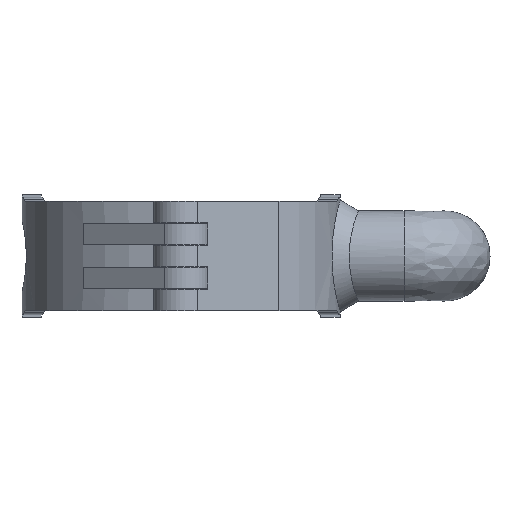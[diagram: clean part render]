
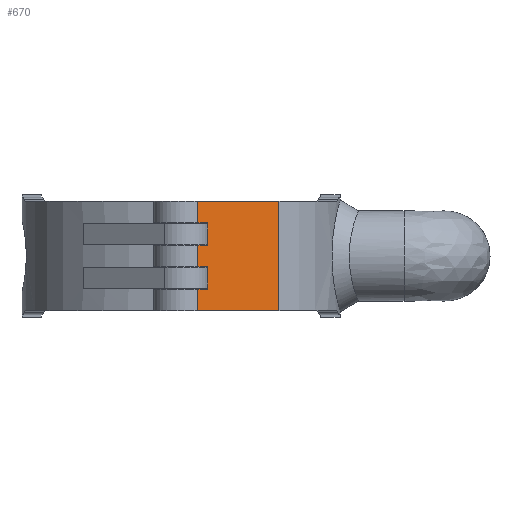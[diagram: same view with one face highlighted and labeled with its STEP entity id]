
A CAD part, front view. The second image highlights one B-rep face of the part: STEP entity #670.
In plain terms, the highlighted planar face has unit normal (0.616, -0.788, 0).
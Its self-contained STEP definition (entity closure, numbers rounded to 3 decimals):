
#546=PLANE('',#5982);
#670=ADVANCED_FACE('',(#1125),#546,.F.);
#1125=FACE_OUTER_BOUND('',#1427,.T.);
#1427=EDGE_LOOP('',(#2452,#2453,#2454,#2455,#2456,#2457,#2458,#2459,#2460,
#2461,#2462,#2463));
#1793=LINE('',#7899,#2120);
#1794=LINE('',#7901,#2121);
#1795=LINE('',#7904,#2122);
#1796=LINE('',#7906,#2123);
#1797=LINE('',#7908,#2124);
#1798=LINE('',#7910,#2125);
#1799=LINE('',#7912,#2126);
#1800=LINE('',#7914,#2127);
#1801=LINE('',#7916,#2128);
#1802=LINE('',#7918,#2129);
#1803=LINE('',#7919,#2130);
#1804=LINE('',#7921,#2131);
#2120=VECTOR('',#6515,1.);
#2121=VECTOR('',#6518,1.);
#2122=VECTOR('',#6519,1.);
#2123=VECTOR('',#6520,1.);
#2124=VECTOR('',#6521,1.);
#2125=VECTOR('',#6522,1.);
#2126=VECTOR('',#6523,1.);
#2127=VECTOR('',#6524,1.);
#2128=VECTOR('',#6525,1.);
#2129=VECTOR('',#6526,1.);
#2130=VECTOR('',#6527,1.);
#2131=VECTOR('',#6528,1.);
#2452=ORIENTED_EDGE('',*,*,#4828,.F.);
#2453=ORIENTED_EDGE('',*,*,#4829,.F.);
#2454=ORIENTED_EDGE('',*,*,#4830,.F.);
#2455=ORIENTED_EDGE('',*,*,#4831,.F.);
#2456=ORIENTED_EDGE('',*,*,#4832,.F.);
#2457=ORIENTED_EDGE('',*,*,#4833,.F.);
#2458=ORIENTED_EDGE('',*,*,#4834,.F.);
#2459=ORIENTED_EDGE('',*,*,#4835,.F.);
#2460=ORIENTED_EDGE('',*,*,#4836,.F.);
#2461=ORIENTED_EDGE('',*,*,#4827,.F.);
#2462=ORIENTED_EDGE('',*,*,#4837,.F.);
#2463=ORIENTED_EDGE('',*,*,#4838,.F.);
#4231=VERTEX_POINT('',#7890);
#4235=VERTEX_POINT('',#7898);
#4236=VERTEX_POINT('',#7902);
#4237=VERTEX_POINT('',#7903);
#4238=VERTEX_POINT('',#7905);
#4239=VERTEX_POINT('',#7907);
#4240=VERTEX_POINT('',#7909);
#4241=VERTEX_POINT('',#7911);
#4242=VERTEX_POINT('',#7913);
#4243=VERTEX_POINT('',#7915);
#4244=VERTEX_POINT('',#7917);
#4245=VERTEX_POINT('',#7920);
#4827=EDGE_CURVE('',#4235,#4231,#1793,.T.);
#4828=EDGE_CURVE('',#4236,#4237,#1794,.T.);
#4829=EDGE_CURVE('',#4238,#4236,#1795,.T.);
#4830=EDGE_CURVE('',#4239,#4238,#1796,.T.);
#4831=EDGE_CURVE('',#4240,#4239,#1797,.T.);
#4832=EDGE_CURVE('',#4241,#4240,#1798,.T.);
#4833=EDGE_CURVE('',#4242,#4241,#1799,.T.);
#4834=EDGE_CURVE('',#4243,#4242,#1800,.T.);
#4835=EDGE_CURVE('',#4244,#4243,#1801,.T.);
#4836=EDGE_CURVE('',#4231,#4244,#1802,.T.);
#4837=EDGE_CURVE('',#4245,#4235,#1803,.T.);
#4838=EDGE_CURVE('',#4237,#4245,#1804,.T.);
#5982=AXIS2_PLACEMENT_3D('',#7922,#6529,#6530);
#6515=DIRECTION('',(0.,0.,1.));
#6518=DIRECTION('',(0.788,0.616,0.));
#6519=DIRECTION('',(0.,0.,1.));
#6520=DIRECTION('',(-0.788,-0.616,0.));
#6521=DIRECTION('',(0.,0.,1.));
#6522=DIRECTION('',(0.788,0.616,0.));
#6523=DIRECTION('',(0.,0.,1.));
#6524=DIRECTION('',(-0.788,-0.616,0.));
#6525=DIRECTION('',(0.,0.,1.));
#6526=DIRECTION('',(0.788,0.616,0.));
#6527=DIRECTION('',(-0.788,-0.616,0.));
#6528=DIRECTION('',(0.,0.,-1.));
#6529=DIRECTION('',(-0.616,0.788,0.));
#6530=DIRECTION('',(0.788,0.616,0.));
#7890=CARTESIAN_POINT('',(-1.34,2.372,-12.15));
#7898=CARTESIAN_POINT('',(-1.34,2.372,-20.));
#7899=CARTESIAN_POINT('',(-1.34,2.372,-20.));
#7901=CARTESIAN_POINT('',(-1.34,2.372,20.));
#7902=CARTESIAN_POINT('',(-1.34,2.372,20.));
#7903=CARTESIAN_POINT('',(28.381,25.613,20.));
#7904=CARTESIAN_POINT('',(-1.34,2.372,12.15));
#7905=CARTESIAN_POINT('',(-1.34,2.372,12.15));
#7906=CARTESIAN_POINT('',(2.27,5.195,12.15));
#7907=CARTESIAN_POINT('',(2.27,5.195,12.15));
#7908=CARTESIAN_POINT('',(2.27,5.195,3.85));
#7909=CARTESIAN_POINT('',(2.27,5.195,3.85));
#7910=CARTESIAN_POINT('',(-1.34,2.372,3.85));
#7911=CARTESIAN_POINT('',(-1.34,2.372,3.85));
#7912=CARTESIAN_POINT('',(-1.34,2.372,-3.85));
#7913=CARTESIAN_POINT('',(-1.34,2.372,-3.85));
#7914=CARTESIAN_POINT('',(2.27,5.195,-3.85));
#7915=CARTESIAN_POINT('',(2.27,5.195,-3.85));
#7916=CARTESIAN_POINT('',(2.27,5.195,-12.15));
#7917=CARTESIAN_POINT('',(2.27,5.195,-12.15));
#7918=CARTESIAN_POINT('',(-1.34,2.372,-12.15));
#7919=CARTESIAN_POINT('',(28.381,25.613,-20.));
#7920=CARTESIAN_POINT('',(28.381,25.613,-20.));
#7921=CARTESIAN_POINT('',(28.381,25.613,20.));
#7922=CARTESIAN_POINT('',(28.381,25.613,-15.));
